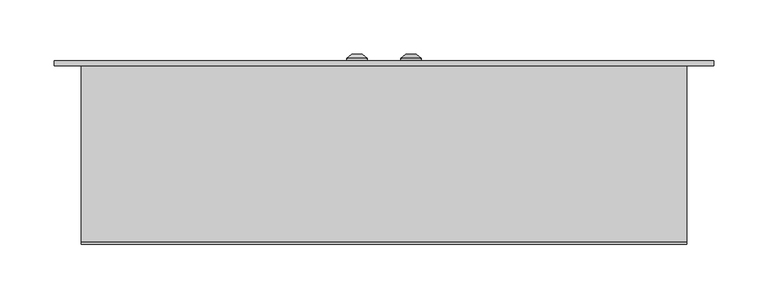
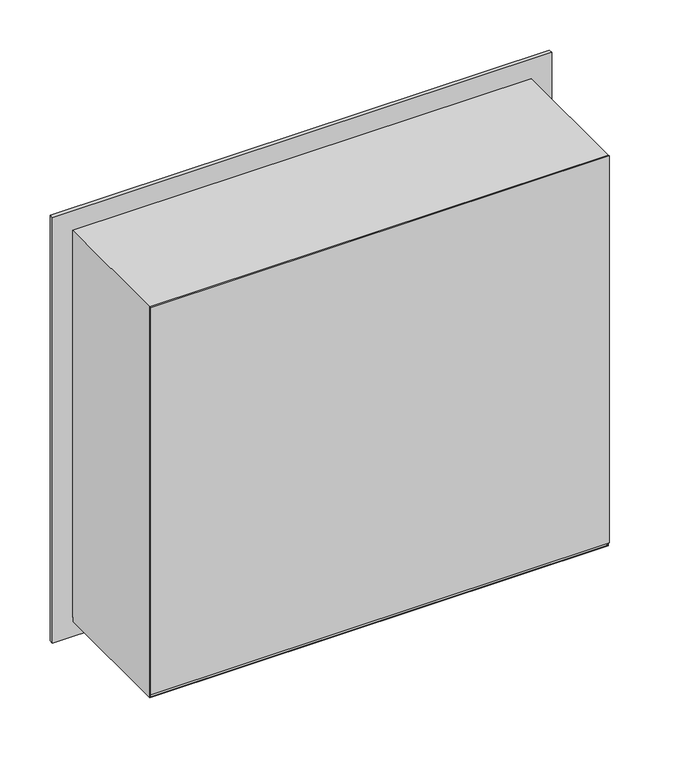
"""IFC4 building model written with IfcOpenShell, lengths in millimetres: proxy geometry, ЩУРВ-3_48 : ЩУРВ-3/48."""

from ifc_helpers import new_model, si_unit, point, frame, frame_2d, origin, place, context, project, spatial, polyline, circle_curve, trimmed, segment, composite_curve, outline, extrude, source, transform, mapped, element, save
from ifc_brep_helpers import plane_surface, cylinder_surface, revolved_surface, advanced_brep


def electrical_equipment_1525a376(model_context):
    return source(origin(), model_context, "Body", "SolidModel", [
        extrude(outline(polyline([(280.0, -165.0), (-280.0, -165.0), (-280.0, -163.0), (280.0, -163.0), (280.0, -165.0)])), frame((0.0, 0.0, 25.0), z_axis=(0.0, 0.0, 1.0), x_axis=(1.0, 0.0, 0.0)), (0.0, 0.0, 1.0), 500.0),
        extrude(outline(composite_curve([segment(trimmed(circle_curve(frame_2d((431.0, 72.0)), 10.0), [point((441.0, 72.0))], [point((431.0, 62.0))], False, "CARTESIAN"), True, "CONTINUOUS"), segment(polyline([(431.0, 62.0), (376.0, 62.0)]), True, "CONTINUOUS"), segment(trimmed(circle_curve(frame_2d((376.0, 72.0)), 10.0), [point((376.0, 62.0))], [point((366.0, 72.0))], False, "CARTESIAN"), True, "CONTINUOUS"), segment(polyline([(366.0, 72.0), (366.0, 152.0)]), True, "CONTINUOUS"), segment(trimmed(circle_curve(frame_2d((376.0, 152.0)), 10.0), [point((366.0, 152.0))], [point((376.0, 162.0))], False, "CARTESIAN"), True, "CONTINUOUS"), segment(polyline([(376.0, 162.0), (431.0, 162.0)]), True, "CONTINUOUS"), segment(trimmed(circle_curve(frame_2d((431.0, 152.0)), 10.0), [point((431.0, 162.0))], [point((441.0, 152.0))], False, "CARTESIAN"), True, "CONTINUOUS"), segment(polyline([(441.0, 152.0), (441.0, 72.0)]), True, "CONTINUOUS")], self_intersect=False)), frame((0.0, 0.0, 0.0), z_axis=(0.0, 1.0, 0.0), x_axis=(0.0, 0.0, 1.0)), (0.0, 0.0, 1.0), 5.0),
        extrude(outline(polyline([(550.0, -305.0), (0.0, -305.0), (0.0, 305.0), (550.0, 305.0), (550.0, -305.0)]), holes=[polyline([(525.0, -280.0), (525.0, 280.0), (25.0, 280.0), (25.0, -280.0), (525.0, -280.0)])]), frame((0.0, 0.0, 0.0), z_axis=(0.0, 1.0, 0.0), x_axis=(0.0, 0.0, 1.0)), (0.0, 0.0, 1.0), 5.0),
        extrude(outline(polyline([(-1.0, 0.0), (-278.0, 0.0), (-278.0, 5.0), (-1.0, 5.0), (-1.0, 0.0)])), frame((0.0, 0.0, 22.0), z_axis=(0.0, 0.0, 1.0), x_axis=(1.0, 0.0, 0.0)), (0.0, 0.0, 1.0), 501.0),
        extrude(outline(polyline([(22.0, 1.0), (22.0, 278.0), (523.0, 278.0), (523.0, 1.0), (22.0, 1.0)]), holes=[composite_curve([segment(polyline([(441.0, 72.0), (441.0, 152.0)]), True, "CONTINUOUS"), segment(trimmed(circle_curve(frame_2d((431.0, 152.0)), 10.0), [point((441.0, 152.0))], [point((431.0, 162.0))], True, "CARTESIAN"), True, "CONTINUOUS"), segment(polyline([(431.0, 162.0), (376.0, 162.0)]), True, "CONTINUOUS"), segment(trimmed(circle_curve(frame_2d((376.0, 152.0)), 10.0), [point((376.0, 162.0))], [point((366.0, 152.0))], True, "CARTESIAN"), True, "CONTINUOUS"), segment(polyline([(366.0, 152.0), (366.0, 72.0)]), True, "CONTINUOUS"), segment(trimmed(circle_curve(frame_2d((376.0, 72.0)), 10.0), [point((366.0, 72.0))], [point((376.0, 62.0))], True, "CARTESIAN"), True, "CONTINUOUS"), segment(polyline([(376.0, 62.0), (431.0, 62.0)]), True, "CONTINUOUS"), segment(trimmed(circle_curve(frame_2d((431.0, 72.0)), 10.0), [point((431.0, 62.0))], [point((441.0, 72.0))], True, "CARTESIAN"), True, "CONTINUOUS")], self_intersect=False)]), frame((0.0, 0.0, 0.0), z_axis=(0.0, 1.0, 0.0), x_axis=(0.0, 0.0, 1.0)), (0.0, 0.0, 1.0), 5.0),
        extrude(outline(polyline([(525.0, -280.0), (20.0, -280.0), (20.0, 280.0), (525.0, 280.0), (525.0, -280.0)]), holes=[polyline([(524.0, -279.0), (524.0, 279.0), (21.0, 279.0), (21.0, -279.0), (524.0, -279.0)])]), frame((0.0, -163.0, 0.0), z_axis=(0.0, 1.0, 0.0), x_axis=(0.0, 0.0, 1.0)), (0.0, 0.0, 1.0), 163.0),
        advanced_brep(
        [(15.669873, 5.0, 275.0), (34.330127, 5.0, 275.0), (25.0, 5.0, 275.0), (15.669873, 7.366592, 275.0), (34.330127, 7.366592, 275.0), (20.0, 11.0, 275.0), (30.0, 11.0, 275.0), (23.1080471, 11.0, 275.0), (26.8919529, 11.0, 275.0), (23.1080471, 9.9822294, 275.0), (26.8919529, 9.9822294, 275.0), (25.0, 9.9822294, 275.0)],
        [
            (0, 1, circle_curve(frame((25.0, 5.0, 275.0), z_axis=(0.0, -1.0, 0.0), x_axis=(1.0, 0.0, 0.0)), 9.330127)),
            (1, 2),
            (2, 0),
            (1, 0, circle_curve(frame((25.0, 5.0, 275.0), z_axis=(0.0, -1.0, 0.0), x_axis=(1.0, 0.0, 0.0)), 9.330127)),
            (3, 4, circle_curve(frame((25.0, 7.366592, 275.0), z_axis=(0.0, -1.0, 0.0), x_axis=(1.0, 0.0, 0.0)), 9.330127)),
            (4, 1),
            (0, 3),
            (4, 3, circle_curve(frame((25.0, 7.366592, 275.0), z_axis=(0.0, -1.0, 0.0), x_axis=(1.0, 0.0, 0.0)), 9.330127)),
            (5, 6, circle_curve(frame((25.0, 11.0, 275.0), z_axis=(0.0, -1.0, 0.0), x_axis=(1.0, 0.0, 0.0)), 5.0)),
            (6, 4),
            (3, 5),
            (6, 5, circle_curve(frame((25.0, 11.0, 275.0), z_axis=(0.0, -1.0, 0.0), x_axis=(1.0, 0.0, 0.0)), 5.0)),
            (7, 8, circle_curve(frame((25.0, 11.0, 275.0), z_axis=(0.0, -1.0, 0.0), x_axis=(1.0, 0.0, 0.0)), 1.8919529)),
            (8, 6),
            (5, 7),
            (8, 7, circle_curve(frame((25.0, 11.0, 275.0), z_axis=(0.0, -1.0, 0.0), x_axis=(1.0, 0.0, 0.0)), 1.8919529)),
            (9, 10, circle_curve(frame((25.0, 9.9822294, 275.0), z_axis=(0.0, -1.0, 0.0), x_axis=(1.0, 0.0, 0.0)), 1.8919529)),
            (10, 8),
            (7, 9),
            (10, 9, circle_curve(frame((25.0, 9.9822294, 275.0), z_axis=(0.0, -1.0, 0.0), x_axis=(1.0, 0.0, 0.0)), 1.8919529)),
            (11, 10),
            (9, 11),
        ],
        [
            plane_surface(frame((25.0, 5.0, 275.0), z_axis=(0.0, -1.0, 0.0), x_axis=(1.0, 0.0, 0.0))),
            cylinder_surface(frame((25.0, 18.1348851, 275.0), z_axis=(0.0, 1.0, 0.0), x_axis=(1.0, 0.0, 0.0)), 9.330127),
            revolved_surface(polyline([(34.330127, 7.366592, 275.0), (30.0, 11.0, 275.0)]), (25.0, 18.1348851, 275.0), (0.0, 1.0, 0.0)),
            plane_surface(frame((25.0, 11.0, 275.0), z_axis=(0.0, 1.0, 0.0), x_axis=(1.0, 0.0, 0.0))),
            revolved_surface(polyline([(26.8919529, 11.0, 275.0), (26.8919529, 9.9822294, 275.0)]), (25.0, 18.1348851, 275.0), (0.0, 1.0, 0.0)),
            plane_surface(frame((25.0, 9.9822294, 275.0), z_axis=(0.0, 1.0, 0.0), x_axis=(1.0, 0.0, 0.0))),
        ],
        [
            (0, [[1, 2, 3]]),
            (0, [[4, -3, -2]]),
            (1, [[5, 6, -1, 7]]),
            (1, [[8, -7, -4, -6]]),
            (2, [[9, 10, -5, 11]]),
            (2, [[12, -11, -8, -10]]),
            (3, [[13, 14, -9, 15]]),
            (3, [[16, -15, -12, -14]]),
            (4, [[17, 18, -13, 19]]),
            (4, [[20, -19, -16, -18]]),
            (5, [[21, -17, 22]]),
            (5, [[-22, -20, -21]]),
        ],
    ),
        advanced_brep(
        [(-25.0, 5.0, 275.0), (-34.330127, 5.0, 275.0), (-15.669873, 5.0, 275.0), (-34.330127, 7.366592, 275.0), (-15.669873, 7.366592, 275.0), (-30.0, 11.0, 275.0), (-20.0, 11.0, 275.0), (-26.8919529, 11.0, 275.0), (-23.1080471, 11.0, 275.0), (-26.8919529, 9.9822294, 275.0), (-23.1080471, 9.9822294, 275.0), (-25.0, 9.9822294, 275.0)],
        [
            (0, 1),
            (1, 2, circle_curve(frame((-25.0, 5.0, 275.0), z_axis=(0.0, -1.0, 0.0), x_axis=(-1.0, 0.0, 0.0)), 9.330127)),
            (2, 0),
            (2, 1, circle_curve(frame((-25.0, 5.0, 275.0), z_axis=(0.0, -1.0, 0.0), x_axis=(-1.0, 0.0, 0.0)), 9.330127)),
            (1, 3),
            (3, 4, circle_curve(frame((-25.0, 7.366592, 275.0), z_axis=(0.0, -1.0, 0.0), x_axis=(-1.0, 0.0, 0.0)), 9.330127)),
            (4, 2),
            (4, 3, circle_curve(frame((-25.0, 7.366592, 275.0), z_axis=(0.0, -1.0, 0.0), x_axis=(-1.0, 0.0, 0.0)), 9.330127)),
            (3, 5),
            (5, 6, circle_curve(frame((-25.0, 11.0, 275.0), z_axis=(0.0, -1.0, 0.0), x_axis=(-1.0, 0.0, 0.0)), 5.0)),
            (6, 4),
            (6, 5, circle_curve(frame((-25.0, 11.0, 275.0), z_axis=(0.0, -1.0, 0.0), x_axis=(-1.0, 0.0, 0.0)), 5.0)),
            (5, 7),
            (7, 8, circle_curve(frame((-25.0, 11.0, 275.0), z_axis=(0.0, -1.0, 0.0), x_axis=(-1.0, 0.0, 0.0)), 1.8919529)),
            (8, 6),
            (8, 7, circle_curve(frame((-25.0, 11.0, 275.0), z_axis=(0.0, -1.0, 0.0), x_axis=(-1.0, 0.0, 0.0)), 1.8919529)),
            (7, 9),
            (9, 10, circle_curve(frame((-25.0, 9.9822294, 275.0), z_axis=(0.0, -1.0, 0.0), x_axis=(-1.0, 0.0, 0.0)), 1.8919529)),
            (10, 8),
            (10, 9, circle_curve(frame((-25.0, 9.9822294, 275.0), z_axis=(0.0, -1.0, 0.0), x_axis=(-1.0, 0.0, 0.0)), 1.8919529)),
            (9, 11),
            (11, 10),
        ],
        [
            plane_surface(frame((-25.0, 5.0, 275.0), z_axis=(0.0, -1.0, 0.0), x_axis=(-1.0, 0.0, 0.0))),
            cylinder_surface(frame((-25.0, 18.1348851, 275.0), z_axis=(0.0, -1.0, 0.0), x_axis=(-1.0, 0.0, 0.0)), 9.330127),
            revolved_surface(polyline([(-30.0, 11.0, 275.0), (-34.330127, 7.366592, 275.0)]), (-25.0, 18.1348851, 275.0), (0.0, -1.0, 0.0)),
            plane_surface(frame((-25.0, 11.0, 275.0), z_axis=(0.0, 1.0, 0.0), x_axis=(-1.0, 0.0, 0.0))),
            revolved_surface(polyline([(-26.8919529, 9.9822294, 275.0), (-26.8919529, 11.0, 275.0)]), (-25.0, 18.1348851, 275.0), (0.0, -1.0, 0.0)),
            plane_surface(frame((-25.0, 9.9822294, 275.0), z_axis=(0.0, 1.0, 0.0), x_axis=(-1.0, 0.0, 0.0))),
        ],
        [
            (0, [[1, 2, 3]]),
            (0, [[-3, 4, -1]]),
            (1, [[-2, 5, 6, 7]]),
            (1, [[-4, -7, 8, -5]]),
            (2, [[-6, 9, 10, 11]]),
            (2, [[-8, -11, 12, -9]]),
            (3, [[-10, 13, 14, 15]]),
            (3, [[-12, -15, 16, -13]]),
            (4, [[-14, 17, 18, 19]]),
            (4, [[-16, -19, 20, -17]]),
            (5, [[-18, 21, 22]]),
            (5, [[-20, -22, -21]]),
        ],
    ),
    ])


if __name__ == "__main__":
    model = new_model("IFC4")
    model_context = context("Model", 3, world=origin())
    ifc_project = project(units=[si_unit("LENGTHUNIT", "METRE", prefix="MILLI")], contexts=[model_context])
    site = spatial("IfcSite", under=ifc_project)
    building = spatial("IfcBuilding", under=site)
    placement = place(None, origin())
    electrical_equipment_shape = electrical_equipment_1525a376(model_context)
    element("IfcBuildingElementProxy", 1, Name="ЩУРВ-3_48 : ЩУРВ-3/48", ObjectType="ЩУРВ-3_48 : ЩУРВ-3/48", at=placement, inside=building, context=model_context, shape_type="MappedRepresentation", body=[
        mapped(electrical_equipment_shape, transform((0.0, 0.0, 0.0), x_axis=(1.0, 0.0, 0.0), y_axis=(0.0, 1.0, 0.0), z_axis=(0.0, 0.0, 1.0))),
    ])
    save(model, "model.ifc")
